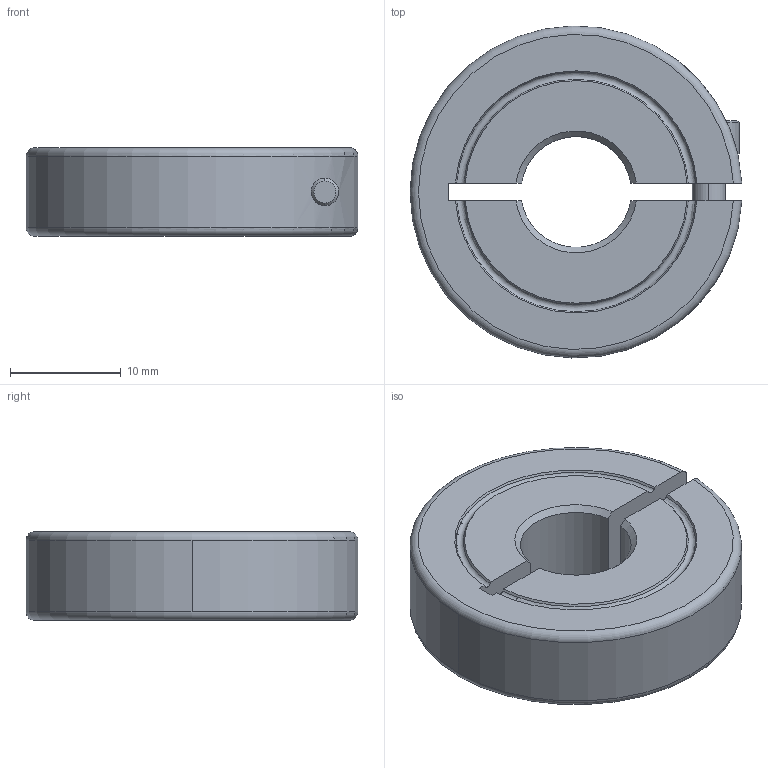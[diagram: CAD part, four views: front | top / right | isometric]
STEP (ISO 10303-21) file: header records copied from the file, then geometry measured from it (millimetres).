
FILE_DESCRIPTION (( 'STEP AP214' ), '1' );
FILE_NAME ('Ruland_ENCL30-10MM-A.step', '2018-10-02T19:13:36', ( '' ), ( '' ), 'SwSTEP 2.0', 'SolidWorks 2018', '' );
FILE_SCHEMA (( 'AUTOMOTIVE_DESIGN' ));
Length unit declared in the file: inch
Products named in the file (3): CAP SCREWS_CFM3_10; ENCLxx-xx-x_ENCL30-10MM-A; Ruland_ENCL30-10MM-A
Assembly tree (2 placements, depth 2):
  Ruland_ENCL30-10MM-A
    ENCLxx-xx-x_ENCL30-10MM-A
    CAP SCREWS_CFM3_10
Bounding box: 29.98 x 29.99 x 8 mm (x, y, z)
Volume: 4698.5 mm3; surface area: 2717.4 mm2
Topology: 2 solids, 2 shells, 53 faces, 132 edges, 86 vertices
Faces by surface type: plane 20, cylinder 15, cone 12, torus 6
Entity records: 1834 total; most frequent: CARTESIAN_POINT 435, DIRECTION 274, ORIENTED_EDGE 264, EDGE_CURVE 132, AXIS2_PLACEMENT_3D 105, VERTEX_POINT 86, VECTOR 64, LINE 64
